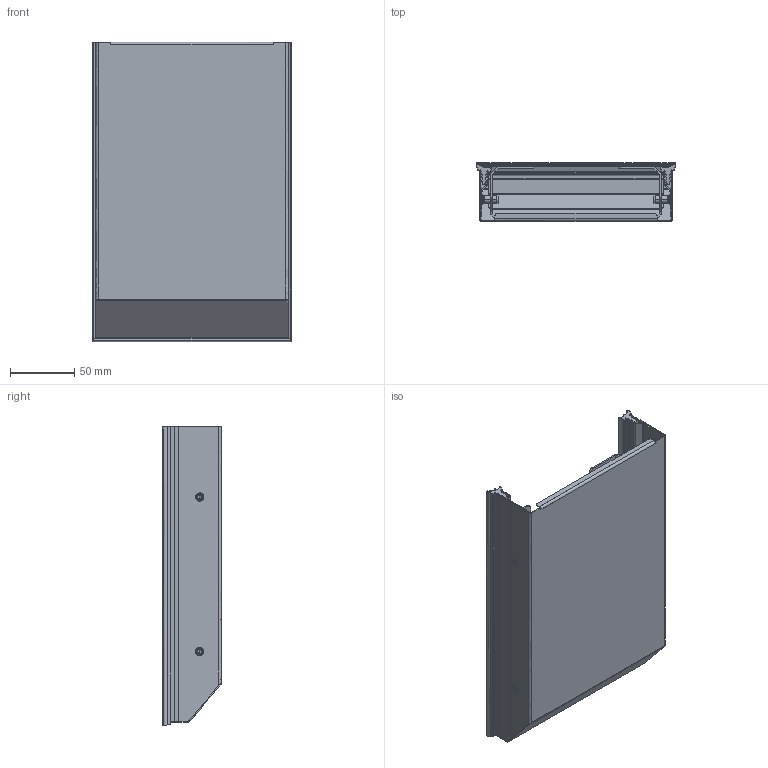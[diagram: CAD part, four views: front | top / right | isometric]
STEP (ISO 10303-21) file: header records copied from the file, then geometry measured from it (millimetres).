
FILE_DESCRIPTION(/* description */ (''),/* implementation_level */ '2;1');
FILE_NAME(/* name */ 'SSC-08A',/* time_stamp */ '2020-03-11T09:39:08+01:00',/* author */ (''),/* organization */ (''),/* preprocessor_version */ 'ST-DEVELOPER v14',/* originating_system */ '',/* authorisation */ '');
FILE_SCHEMA (('CONFIG_CONTROL_DESIGN'));
Length unit declared in the file: millimetre
Products named in the file (1): Document
Bounding box: 155.4 x 45.56 x 232.7 mm (x, y, z)
Volume: 24610 mm3; surface area: 228425 mm2
Topology: 7 solids, 11 shells, 535 faces, 1413 edges, 850 vertices
Faces by surface type: bspline 328, plane 207
Entity records: 20291 total; most frequent: CARTESIAN_POINT 11927, ORIENTED_EDGE 2716, EDGE_CURVE 1405, B_SPLINE_CURVE_WITH_KNOTS 958, VERTEX_POINT 850, EDGE_LOOP 575, ADVANCED_FACE 535, FACE_OUTER_BOUND 535
